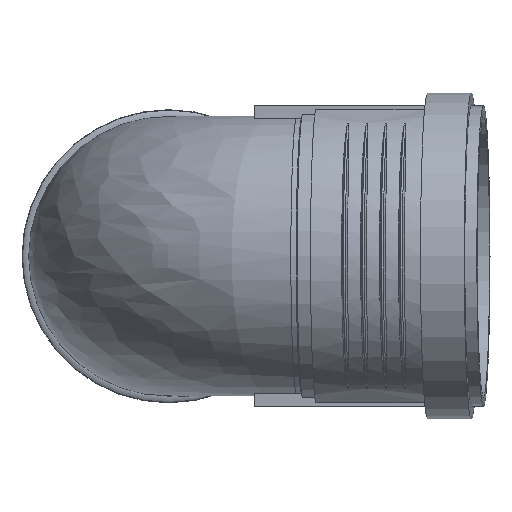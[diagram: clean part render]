
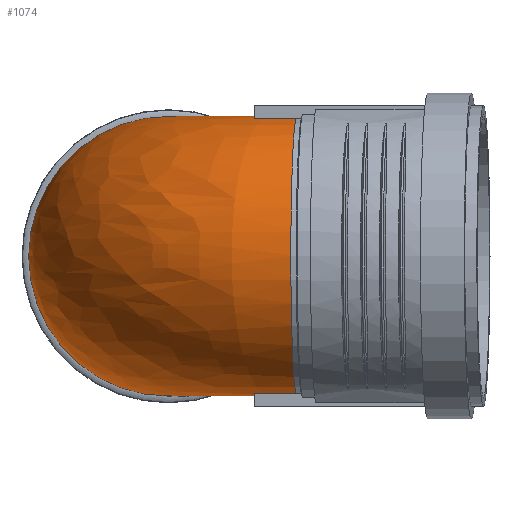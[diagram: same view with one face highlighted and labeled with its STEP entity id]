
A CAD part, top view. The second image highlights one B-rep face of the part: STEP entity #1074.
In plain terms, the highlighted free-form (B-spline) face has degree [2, 2] with [9, 9] control points.
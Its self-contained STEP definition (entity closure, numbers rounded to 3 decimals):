
#142=(
BOUNDED_SURFACE()
B_SPLINE_SURFACE(2,2,((#1588,#1589,#1590,#1591,#1592,#1593,#1594,#1595,
#1596),(#1597,#1598,#1599,#1600,#1601,#1602,#1603,#1604,#1605),(#1606,#1607,
#1608,#1609,#1610,#1611,#1612,#1613,#1614),(#1615,#1616,#1617,#1618,#1619,
#1620,#1621,#1622,#1623),(#1624,#1625,#1626,#1627,#1628,#1629,#1630,#1631,
#1632),(#1633,#1634,#1635,#1636,#1637,#1638,#1639,#1640,#1641),(#1642,#1643,
#1644,#1645,#1646,#1647,#1648,#1649,#1650),(#1651,#1652,#1653,#1654,#1655,
#1656,#1657,#1658,#1659),(#1660,#1661,#1662,#1663,#1664,#1665,#1666,#1667,
#1668)),.UNSPECIFIED.,.T.,.T.,.F.)
B_SPLINE_SURFACE_WITH_KNOTS((3,2,2,2,3),(3,2,2,2,3),(-3.142,
-1.571,0.,1.571,3.142),(-3.142,
-1.571,0.,1.571,3.142),.UNSPECIFIED.)
GEOMETRIC_REPRESENTATION_ITEM()
RATIONAL_B_SPLINE_SURFACE(((1.,0.707,1.,0.707,1.,
0.707,1.,0.707,1.),(0.707,0.5,
0.707,0.5,0.707,0.5,
0.707,0.5,0.707),(1.,0.707,
1.,0.707,1.,0.707,1.,0.707,1.),(0.707,
0.5,0.707,0.5,0.707,
0.5,0.707,0.5,0.707),
(1.,0.707,1.,0.707,1.,0.707,1.,0.707,
1.),(0.707,0.5,0.707,0.5,
0.707,0.5,0.707,0.5,
0.707),(1.,0.707,1.,0.707,1.,0.707,
1.,0.707,1.),(0.707,0.5,0.707,
0.5,0.707,0.5,0.707,
0.5,0.707),(1.,0.707,1.,0.707,
1.,0.707,1.,0.707,1.)))
REPRESENTATION_ITEM($)
SURFACE()
);
#260=FACE_OUTER_BOUND($,#331,.T.);
#331=EDGE_LOOP($,(#734,#735));
#425=CIRCLE($,#1158,62.6);
#426=CIRCLE($,#1159,62.6);
#480=VERTEX_POINT($,#1586);
#586=EDGE_CURVE($,#480,#480,#425,.T.);
#587=EDGE_CURVE($,#480,#480,#426,.T.);
#734=ORIENTED_EDGE($,*,*,#586,.T.);
#735=ORIENTED_EDGE($,*,*,#587,.F.);
#1074=ADVANCED_FACE($,(#260),#142,.F.);
#1158=AXIS2_PLACEMENT_3D($,#1587,#1307,#1308);
#1159=AXIS2_PLACEMENT_3D($,#1669,#1309,#1310);
#1307=DIRECTION('center_axis',(-0.999,0.,-0.044));
#1308=DIRECTION('ref_axis',(-0.044,0.,0.999));
#1309=DIRECTION('center_axis',(0.,0.,-1.));
#1310=DIRECTION('ref_axis',(-1.,0.,0.));
#1586=CARTESIAN_POINT('',(62.6,0.,80.65));
#1587=CARTESIAN_POINT('Origin',(59.869,0.,143.19));
#1588=CARTESIAN_POINT('Ctrl Pts',(62.6,0.,80.65));
#1589=CARTESIAN_POINT('Ctrl Pts',(62.6,0.,80.65));
#1590=CARTESIAN_POINT('Ctrl Pts',(62.6,0.,80.65));
#1591=CARTESIAN_POINT('Ctrl Pts',(62.6,0.,80.65));
#1592=CARTESIAN_POINT('Ctrl Pts',(62.6,0.,80.65));
#1593=CARTESIAN_POINT('Ctrl Pts',(62.6,0.,80.65));
#1594=CARTESIAN_POINT('Ctrl Pts',(62.6,0.,80.65));
#1595=CARTESIAN_POINT('Ctrl Pts',(62.6,0.,80.65));
#1596=CARTESIAN_POINT('Ctrl Pts',(62.6,0.,80.65));
#1597=CARTESIAN_POINT('Ctrl Pts',(62.6,-62.6,80.65));
#1598=CARTESIAN_POINT('Ctrl Pts',(62.6,-62.6,80.65));
#1599=CARTESIAN_POINT('Ctrl Pts',(62.6,-62.6,80.65));
#1600=CARTESIAN_POINT('Ctrl Pts',(62.6,-62.6,80.65));
#1601=CARTESIAN_POINT('Ctrl Pts',(62.6,-62.6,80.65));
#1602=CARTESIAN_POINT('Ctrl Pts',(62.6,-62.6,80.65));
#1603=CARTESIAN_POINT('Ctrl Pts',(62.6,-62.6,80.65));
#1604=CARTESIAN_POINT('Ctrl Pts',(62.6,-62.6,80.65));
#1605=CARTESIAN_POINT('Ctrl Pts',(62.6,-62.6,80.65));
#1606=CARTESIAN_POINT('Ctrl Pts',(62.6,-62.6,18.05));
#1607=CARTESIAN_POINT('Ctrl Pts',(0.,-62.6,18.05));
#1608=CARTESIAN_POINT('Ctrl Pts',(0.,-62.6,80.65));
#1609=CARTESIAN_POINT('Ctrl Pts',(0.,-62.6,143.25));
#1610=CARTESIAN_POINT('Ctrl Pts',(62.6,-62.6,143.25));
#1611=CARTESIAN_POINT('Ctrl Pts',(125.2,-62.6,143.25));
#1612=CARTESIAN_POINT('Ctrl Pts',(125.2,-62.6,80.65));
#1613=CARTESIAN_POINT('Ctrl Pts',(125.2,-62.6,18.05));
#1614=CARTESIAN_POINT('Ctrl Pts',(62.6,-62.6,18.05));
#1615=CARTESIAN_POINT('Ctrl Pts',(62.6,-62.6,-44.55));
#1616=CARTESIAN_POINT('Ctrl Pts',(-62.6,-62.6,-44.55));
#1617=CARTESIAN_POINT('Ctrl Pts',(-62.6,-62.6,80.65));
#1618=CARTESIAN_POINT('Ctrl Pts',(-62.6,-62.6,205.85));
#1619=CARTESIAN_POINT('Ctrl Pts',(62.6,-62.6,205.85));
#1620=CARTESIAN_POINT('Ctrl Pts',(187.8,-62.6,205.85));
#1621=CARTESIAN_POINT('Ctrl Pts',(187.8,-62.6,80.65));
#1622=CARTESIAN_POINT('Ctrl Pts',(187.8,-62.6,-44.55));
#1623=CARTESIAN_POINT('Ctrl Pts',(62.6,-62.6,-44.55));
#1624=CARTESIAN_POINT('Ctrl Pts',(62.6,0.,-44.55));
#1625=CARTESIAN_POINT('Ctrl Pts',(-62.6,0.,-44.55));
#1626=CARTESIAN_POINT('Ctrl Pts',(-62.6,0.,80.65));
#1627=CARTESIAN_POINT('Ctrl Pts',(-62.6,0.,205.85));
#1628=CARTESIAN_POINT('Ctrl Pts',(62.6,0.,205.85));
#1629=CARTESIAN_POINT('Ctrl Pts',(187.8,0.,205.85));
#1630=CARTESIAN_POINT('Ctrl Pts',(187.8,0.,80.65));
#1631=CARTESIAN_POINT('Ctrl Pts',(187.8,0.,-44.55));
#1632=CARTESIAN_POINT('Ctrl Pts',(62.6,0.,-44.55));
#1633=CARTESIAN_POINT('Ctrl Pts',(62.6,62.6,-44.55));
#1634=CARTESIAN_POINT('Ctrl Pts',(-62.6,62.6,-44.55));
#1635=CARTESIAN_POINT('Ctrl Pts',(-62.6,62.6,80.65));
#1636=CARTESIAN_POINT('Ctrl Pts',(-62.6,62.6,205.85));
#1637=CARTESIAN_POINT('Ctrl Pts',(62.6,62.6,205.85));
#1638=CARTESIAN_POINT('Ctrl Pts',(187.8,62.6,205.85));
#1639=CARTESIAN_POINT('Ctrl Pts',(187.8,62.6,80.65));
#1640=CARTESIAN_POINT('Ctrl Pts',(187.8,62.6,-44.55));
#1641=CARTESIAN_POINT('Ctrl Pts',(62.6,62.6,-44.55));
#1642=CARTESIAN_POINT('Ctrl Pts',(62.6,62.6,18.05));
#1643=CARTESIAN_POINT('Ctrl Pts',(0.,62.6,18.05));
#1644=CARTESIAN_POINT('Ctrl Pts',(0.,62.6,80.65));
#1645=CARTESIAN_POINT('Ctrl Pts',(0.,62.6,143.25));
#1646=CARTESIAN_POINT('Ctrl Pts',(62.6,62.6,143.25));
#1647=CARTESIAN_POINT('Ctrl Pts',(125.2,62.6,143.25));
#1648=CARTESIAN_POINT('Ctrl Pts',(125.2,62.6,80.65));
#1649=CARTESIAN_POINT('Ctrl Pts',(125.2,62.6,18.05));
#1650=CARTESIAN_POINT('Ctrl Pts',(62.6,62.6,18.05));
#1651=CARTESIAN_POINT('Ctrl Pts',(62.6,62.6,80.65));
#1652=CARTESIAN_POINT('Ctrl Pts',(62.6,62.6,80.65));
#1653=CARTESIAN_POINT('Ctrl Pts',(62.6,62.6,80.65));
#1654=CARTESIAN_POINT('Ctrl Pts',(62.6,62.6,80.65));
#1655=CARTESIAN_POINT('Ctrl Pts',(62.6,62.6,80.65));
#1656=CARTESIAN_POINT('Ctrl Pts',(62.6,62.6,80.65));
#1657=CARTESIAN_POINT('Ctrl Pts',(62.6,62.6,80.65));
#1658=CARTESIAN_POINT('Ctrl Pts',(62.6,62.6,80.65));
#1659=CARTESIAN_POINT('Ctrl Pts',(62.6,62.6,80.65));
#1660=CARTESIAN_POINT('Ctrl Pts',(62.6,0.,80.65));
#1661=CARTESIAN_POINT('Ctrl Pts',(62.6,0.,80.65));
#1662=CARTESIAN_POINT('Ctrl Pts',(62.6,0.,80.65));
#1663=CARTESIAN_POINT('Ctrl Pts',(62.6,0.,80.65));
#1664=CARTESIAN_POINT('Ctrl Pts',(62.6,0.,80.65));
#1665=CARTESIAN_POINT('Ctrl Pts',(62.6,0.,80.65));
#1666=CARTESIAN_POINT('Ctrl Pts',(62.6,0.,80.65));
#1667=CARTESIAN_POINT('Ctrl Pts',(62.6,0.,80.65));
#1668=CARTESIAN_POINT('Ctrl Pts',(62.6,0.,80.65));
#1669=CARTESIAN_POINT('Origin',(0.,0.,80.65));
